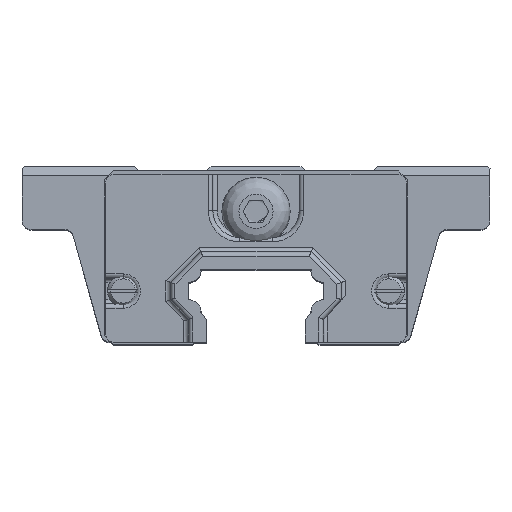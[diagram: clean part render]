
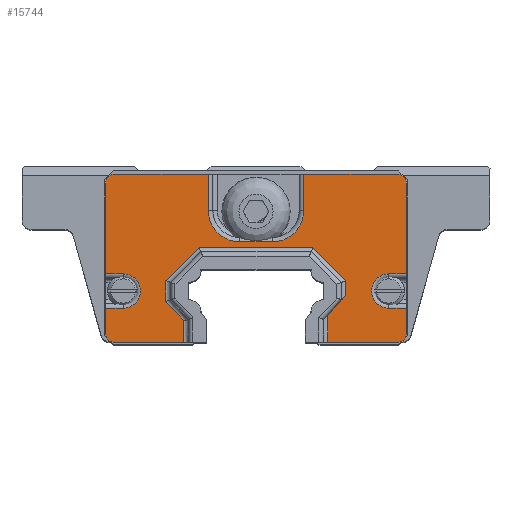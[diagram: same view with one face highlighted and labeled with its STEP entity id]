
A CAD part, top view. The second image highlights one B-rep face of the part: STEP entity #15744.
In plain terms, the highlighted planar face has unit normal (0, 0, 1).
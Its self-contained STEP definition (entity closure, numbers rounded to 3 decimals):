
#1350=PLANE('',#17773);
#2461=FACE_OUTER_BOUND('',#3449,.T.);
#3449=EDGE_LOOP('',(#14373,#14374,#14375,#14376,#14377,#14378,#14379,#14380,
#14381,#14382,#14383,#14384,#14385,#14386,#14387,#14388,#14389,#14390,#14391,
#14392,#14393,#14394,#14395,#14396,#14397,#14398,#14399,#14400,#14401,#14402,
#14403,#14404));
#4720=LINE('',#27225,#6059);
#4768=LINE('',#27375,#6107);
#4770=LINE('',#27387,#6109);
#4773=LINE('',#27400,#6112);
#4774=LINE('',#27402,#6113);
#4775=LINE('',#27404,#6114);
#4776=LINE('',#27406,#6115);
#4777=LINE('',#27408,#6116);
#4778=LINE('',#27410,#6117);
#4779=LINE('',#27412,#6118);
#4780=LINE('',#27414,#6119);
#4781=LINE('',#27416,#6120);
#4782=LINE('',#27417,#6121);
#4783=LINE('',#27421,#6122);
#4784=LINE('',#27423,#6123);
#4785=LINE('',#27427,#6124);
#4786=LINE('',#27429,#6125);
#4787=LINE('',#27433,#6126);
#4788=LINE('',#27435,#6127);
#4789=LINE('',#27439,#6128);
#4790=LINE('',#27443,#6129);
#4791=LINE('',#27445,#6130);
#4792=LINE('',#27448,#6131);
#4793=LINE('',#27451,#6132);
#6059=VECTOR('',#21866,10.);
#6107=VECTOR('',#22006,10.);
#6109=VECTOR('',#22016,10.);
#6112=VECTOR('',#22029,10.);
#6113=VECTOR('',#22030,10.);
#6114=VECTOR('',#22031,10.);
#6115=VECTOR('',#22032,10.);
#6116=VECTOR('',#22033,10.);
#6117=VECTOR('',#22034,10.);
#6118=VECTOR('',#22035,10.);
#6119=VECTOR('',#22036,10.);
#6120=VECTOR('',#22037,10.);
#6121=VECTOR('',#22038,10.);
#6122=VECTOR('',#22041,10.);
#6123=VECTOR('',#22042,10.);
#6124=VECTOR('',#22045,10.);
#6125=VECTOR('',#22046,10.);
#6126=VECTOR('',#22049,10.);
#6127=VECTOR('',#22050,10.);
#6128=VECTOR('',#22053,10.);
#6129=VECTOR('',#22056,10.);
#6130=VECTOR('',#22057,10.);
#6131=VECTOR('',#22060,10.);
#6132=VECTOR('',#22063,10.);
#6795=CIRCLE('',#17763,1.);
#6804=CIRCLE('',#17774,1.);
#6805=CIRCLE('',#17775,1.9);
#6806=CIRCLE('',#17776,1.);
#6807=CIRCLE('',#17777,3.5);
#6808=CIRCLE('',#17778,3.5);
#6809=CIRCLE('',#17779,1.);
#6810=CIRCLE('',#17780,1.9);
#8269=VERTEX_POINT('',#27222);
#8270=VERTEX_POINT('',#27224);
#8324=VERTEX_POINT('',#27368);
#8325=VERTEX_POINT('',#27369);
#8326=VERTEX_POINT('',#27374);
#8331=VERTEX_POINT('',#27384);
#8332=VERTEX_POINT('',#27386);
#8337=VERTEX_POINT('',#27399);
#8338=VERTEX_POINT('',#27401);
#8339=VERTEX_POINT('',#27403);
#8340=VERTEX_POINT('',#27405);
#8341=VERTEX_POINT('',#27407);
#8342=VERTEX_POINT('',#27409);
#8343=VERTEX_POINT('',#27411);
#8344=VERTEX_POINT('',#27413);
#8345=VERTEX_POINT('',#27415);
#8346=VERTEX_POINT('',#27418);
#8347=VERTEX_POINT('',#27420);
#8348=VERTEX_POINT('',#27422);
#8349=VERTEX_POINT('',#27424);
#8350=VERTEX_POINT('',#27426);
#8351=VERTEX_POINT('',#27428);
#8352=VERTEX_POINT('',#27430);
#8353=VERTEX_POINT('',#27432);
#8354=VERTEX_POINT('',#27434);
#8355=VERTEX_POINT('',#27436);
#8356=VERTEX_POINT('',#27438);
#8357=VERTEX_POINT('',#27440);
#8358=VERTEX_POINT('',#27442);
#8359=VERTEX_POINT('',#27444);
#8360=VERTEX_POINT('',#27447);
#8361=VERTEX_POINT('',#27449);
#10291=EDGE_CURVE('',#8270,#8269,#4720,.T.);
#10363=EDGE_CURVE('',#8324,#8325,#6795,.T.);
#10366=EDGE_CURVE('',#8325,#8326,#4768,.T.);
#10372=EDGE_CURVE('',#8331,#8332,#4770,.T.);
#10379=EDGE_CURVE('',#8337,#8324,#4773,.T.);
#10380=EDGE_CURVE('',#8338,#8337,#4774,.T.);
#10381=EDGE_CURVE('',#8339,#8338,#4775,.T.);
#10382=EDGE_CURVE('',#8340,#8339,#4776,.T.);
#10383=EDGE_CURVE('',#8341,#8340,#4777,.T.);
#10384=EDGE_CURVE('',#8342,#8341,#4778,.T.);
#10385=EDGE_CURVE('',#8343,#8342,#4779,.T.);
#10386=EDGE_CURVE('',#8344,#8343,#4780,.T.);
#10387=EDGE_CURVE('',#8344,#8345,#4781,.T.);
#10388=EDGE_CURVE('',#8270,#8345,#4782,.T.);
#10389=EDGE_CURVE('',#8346,#8269,#6804,.T.);
#10390=EDGE_CURVE('',#8346,#8347,#4783,.T.);
#10391=EDGE_CURVE('',#8348,#8347,#4784,.T.);
#10392=EDGE_CURVE('',#8349,#8348,#6805,.T.);
#10393=EDGE_CURVE('',#8350,#8349,#4785,.T.);
#10394=EDGE_CURVE('',#8350,#8351,#4786,.T.);
#10395=EDGE_CURVE('',#8352,#8351,#6806,.T.);
#10396=EDGE_CURVE('',#8352,#8353,#4787,.T.);
#10397=EDGE_CURVE('',#8354,#8353,#4788,.T.);
#10398=EDGE_CURVE('',#8355,#8354,#6807,.T.);
#10399=EDGE_CURVE('',#8356,#8355,#4789,.T.);
#10400=EDGE_CURVE('',#8357,#8356,#6808,.T.);
#10401=EDGE_CURVE('',#8358,#8357,#4790,.T.);
#10402=EDGE_CURVE('',#8358,#8359,#4791,.T.);
#10403=EDGE_CURVE('',#8332,#8359,#6809,.T.);
#10404=EDGE_CURVE('',#8360,#8331,#4792,.T.);
#10405=EDGE_CURVE('',#8361,#8360,#6810,.T.);
#10406=EDGE_CURVE('',#8326,#8361,#4793,.T.);
#14373=ORIENTED_EDGE('',*,*,#10363,.F.);
#14374=ORIENTED_EDGE('',*,*,#10379,.F.);
#14375=ORIENTED_EDGE('',*,*,#10380,.F.);
#14376=ORIENTED_EDGE('',*,*,#10381,.F.);
#14377=ORIENTED_EDGE('',*,*,#10382,.F.);
#14378=ORIENTED_EDGE('',*,*,#10383,.F.);
#14379=ORIENTED_EDGE('',*,*,#10384,.F.);
#14380=ORIENTED_EDGE('',*,*,#10385,.F.);
#14381=ORIENTED_EDGE('',*,*,#10386,.F.);
#14382=ORIENTED_EDGE('',*,*,#10387,.T.);
#14383=ORIENTED_EDGE('',*,*,#10388,.F.);
#14384=ORIENTED_EDGE('',*,*,#10291,.T.);
#14385=ORIENTED_EDGE('',*,*,#10389,.F.);
#14386=ORIENTED_EDGE('',*,*,#10390,.T.);
#14387=ORIENTED_EDGE('',*,*,#10391,.F.);
#14388=ORIENTED_EDGE('',*,*,#10392,.F.);
#14389=ORIENTED_EDGE('',*,*,#10393,.F.);
#14390=ORIENTED_EDGE('',*,*,#10394,.T.);
#14391=ORIENTED_EDGE('',*,*,#10395,.F.);
#14392=ORIENTED_EDGE('',*,*,#10396,.T.);
#14393=ORIENTED_EDGE('',*,*,#10397,.F.);
#14394=ORIENTED_EDGE('',*,*,#10398,.F.);
#14395=ORIENTED_EDGE('',*,*,#10399,.F.);
#14396=ORIENTED_EDGE('',*,*,#10400,.F.);
#14397=ORIENTED_EDGE('',*,*,#10401,.F.);
#14398=ORIENTED_EDGE('',*,*,#10402,.T.);
#14399=ORIENTED_EDGE('',*,*,#10403,.F.);
#14400=ORIENTED_EDGE('',*,*,#10372,.F.);
#14401=ORIENTED_EDGE('',*,*,#10404,.F.);
#14402=ORIENTED_EDGE('',*,*,#10405,.F.);
#14403=ORIENTED_EDGE('',*,*,#10406,.F.);
#14404=ORIENTED_EDGE('',*,*,#10366,.F.);
#15744=ADVANCED_FACE('',(#2461),#1350,.T.);
#17763=AXIS2_PLACEMENT_3D('',#27370,#22000,#22001);
#17773=AXIS2_PLACEMENT_3D('',#27398,#22027,#22028);
#17774=AXIS2_PLACEMENT_3D('',#27419,#22039,#22040);
#17775=AXIS2_PLACEMENT_3D('',#27425,#22043,#22044);
#17776=AXIS2_PLACEMENT_3D('',#27431,#22047,#22048);
#17777=AXIS2_PLACEMENT_3D('',#27437,#22051,#22052);
#17778=AXIS2_PLACEMENT_3D('',#27441,#22054,#22055);
#17779=AXIS2_PLACEMENT_3D('',#27446,#22058,#22059);
#17780=AXIS2_PLACEMENT_3D('',#27450,#22061,#22062);
#21866=DIRECTION('',(1.,0.,0.));
#22000=DIRECTION('center_axis',(0.,0.,-1.));
#22001=DIRECTION('ref_axis',(-0.707,-0.707,0.));
#22006=DIRECTION('',(0.,1.,0.));
#22016=DIRECTION('',(0.,1.,0.));
#22027=DIRECTION('center_axis',(0.,0.,1.));
#22028=DIRECTION('ref_axis',(1.,0.,0.));
#22029=DIRECTION('',(-1.,0.,0.));
#22030=DIRECTION('',(0.,-1.,0.));
#22031=DIRECTION('',(0.675,-0.738,0.));
#22032=DIRECTION('',(0.,-1.,0.));
#22033=DIRECTION('',(-0.707,-0.707,0.));
#22034=DIRECTION('',(-1.,0.,0.));
#22035=DIRECTION('',(-0.707,0.707,0.));
#22036=DIRECTION('',(0.,1.,0.));
#22037=DIRECTION('',(-0.675,-0.738,0.));
#22038=DIRECTION('',(0.,1.,0.));
#22039=DIRECTION('center_axis',(0.,0.,-1.));
#22040=DIRECTION('ref_axis',(0.707,-0.707,0.));
#22041=DIRECTION('',(0.,1.,0.));
#22042=DIRECTION('',(1.,0.,0.));
#22043=DIRECTION('center_axis',(0.,0.,1.));
#22044=DIRECTION('ref_axis',(-1.,0.,0.));
#22045=DIRECTION('',(-1.,0.,0.));
#22046=DIRECTION('',(0.,1.,0.));
#22047=DIRECTION('center_axis',(0.,0.,-1.));
#22048=DIRECTION('ref_axis',(0.707,0.707,0.));
#22049=DIRECTION('',(-1.,0.,0.));
#22050=DIRECTION('',(0.,1.,0.));
#22051=DIRECTION('center_axis',(0.,0.,1.));
#22052=DIRECTION('ref_axis',(0.707,-0.707,0.));
#22053=DIRECTION('',(1.,0.,0.));
#22054=DIRECTION('center_axis',(0.,0.,1.));
#22055=DIRECTION('ref_axis',(-0.707,-0.707,0.));
#22056=DIRECTION('',(0.,-1.,0.));
#22057=DIRECTION('',(-1.,0.,0.));
#22058=DIRECTION('center_axis',(0.,0.,-1.));
#22059=DIRECTION('ref_axis',(-0.707,0.707,0.));
#22060=DIRECTION('',(-1.,0.,0.));
#22061=DIRECTION('center_axis',(0.,0.,1.));
#22062=DIRECTION('ref_axis',(1.,0.,0.));
#22063=DIRECTION('',(1.,0.,0.));
#27222=CARTESIAN_POINT('',(15.7,0.,0.5));
#27224=CARTESIAN_POINT('',(8.,0.,0.5));
#27225=CARTESIAN_POINT('',(16.7,0.,0.5));
#27368=CARTESIAN_POINT('',(-15.7,0.,0.5));
#27369=CARTESIAN_POINT('',(-16.7,1.,0.5));
#27370=CARTESIAN_POINT('Origin',(-15.7,1.,0.5));
#27374=CARTESIAN_POINT('',(-16.7,3.8,0.5));
#27375=CARTESIAN_POINT('',(-16.7,18.7,0.5));
#27384=CARTESIAN_POINT('',(-16.7,7.6,0.5));
#27386=CARTESIAN_POINT('',(-16.7,17.7,0.5));
#27387=CARTESIAN_POINT('',(-16.7,18.7,0.5));
#27398=CARTESIAN_POINT('Origin',(-8.988,9.847,0.5));
#27399=CARTESIAN_POINT('',(-8.,0.,0.5));
#27400=CARTESIAN_POINT('',(-16.7,0.,0.5));
#27401=CARTESIAN_POINT('',(-8.,2.356,0.5));
#27402=CARTESIAN_POINT('',(-8.,6.198,0.5));
#27403=CARTESIAN_POINT('',(-10.,4.542,0.5));
#27404=CARTESIAN_POINT('',(-11.025,5.662,0.5));
#27405=CARTESIAN_POINT('',(-10.,6.871,0.5));
#27406=CARTESIAN_POINT('',(-10.,8.255,0.5));
#27407=CARTESIAN_POINT('',(-6.321,10.55,0.5));
#27408=CARTESIAN_POINT('',(-7.237,9.634,0.5));
#27409=CARTESIAN_POINT('',(6.321,10.55,0.5));
#27410=CARTESIAN_POINT('',(-1.437,10.55,0.5));
#27411=CARTESIAN_POINT('',(10.,6.871,0.5));
#27412=CARTESIAN_POINT('',(4.436,12.435,0.5));
#27413=CARTESIAN_POINT('',(10.,5.282,0.5));
#27414=CARTESIAN_POINT('',(10.,7.291,0.5));
#27415=CARTESIAN_POINT('',(8.,3.097,0.5));
#27416=CARTESIAN_POINT('',(5.56,0.43,0.5));
#27417=CARTESIAN_POINT('',(8.,4.923,0.5));
#27418=CARTESIAN_POINT('',(16.7,1.,0.5));
#27419=CARTESIAN_POINT('Origin',(15.7,1.,0.5));
#27420=CARTESIAN_POINT('',(16.7,3.8,0.5));
#27421=CARTESIAN_POINT('',(16.7,18.7,0.5));
#27422=CARTESIAN_POINT('',(14.75,3.8,0.5));
#27423=CARTESIAN_POINT('',(2.881,3.8,0.5));
#27424=CARTESIAN_POINT('',(14.75,7.6,0.5));
#27425=CARTESIAN_POINT('Origin',(14.75,5.7,0.5));
#27426=CARTESIAN_POINT('',(16.7,7.6,0.5));
#27427=CARTESIAN_POINT('',(3.856,7.6,0.5));
#27428=CARTESIAN_POINT('',(16.7,17.7,0.5));
#27429=CARTESIAN_POINT('',(16.7,18.7,0.5));
#27430=CARTESIAN_POINT('',(15.7,18.7,0.5));
#27431=CARTESIAN_POINT('Origin',(15.7,17.7,0.5));
#27432=CARTESIAN_POINT('',(5.3,18.7,0.5));
#27433=CARTESIAN_POINT('',(0.,18.7,0.5));
#27434=CARTESIAN_POINT('',(5.3,14.65,0.5));
#27435=CARTESIAN_POINT('',(5.3,14.273,0.5));
#27436=CARTESIAN_POINT('',(1.8,11.15,0.5));
#27437=CARTESIAN_POINT('Origin',(1.8,14.65,0.5));
#27438=CARTESIAN_POINT('',(-1.8,11.15,0.5));
#27439=CARTESIAN_POINT('',(-2.094,11.15,0.5));
#27440=CARTESIAN_POINT('',(-5.3,14.65,0.5));
#27441=CARTESIAN_POINT('Origin',(-1.8,14.65,0.5));
#27442=CARTESIAN_POINT('',(-5.3,18.7,0.5));
#27443=CARTESIAN_POINT('',(-5.3,10.748,0.5));
#27444=CARTESIAN_POINT('',(-15.7,18.7,0.5));
#27445=CARTESIAN_POINT('',(0.,18.7,0.5));
#27446=CARTESIAN_POINT('Origin',(-15.7,17.7,0.5));
#27447=CARTESIAN_POINT('',(-14.75,7.6,0.5));
#27448=CARTESIAN_POINT('',(-12.844,7.6,0.5));
#27449=CARTESIAN_POINT('',(-14.75,3.8,0.5));
#27450=CARTESIAN_POINT('Origin',(-14.75,5.7,0.5));
#27451=CARTESIAN_POINT('',(-11.869,3.8,0.5));
